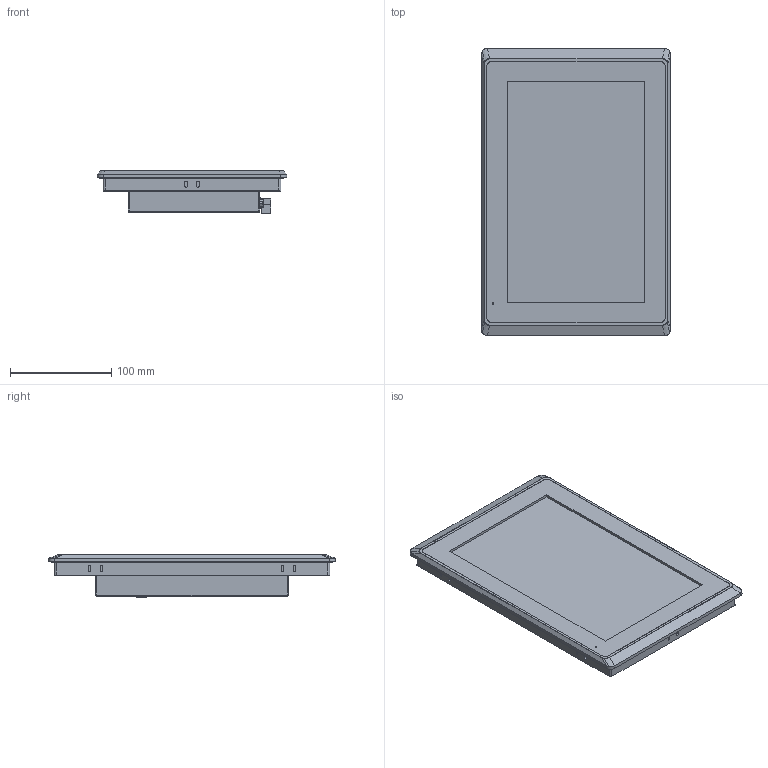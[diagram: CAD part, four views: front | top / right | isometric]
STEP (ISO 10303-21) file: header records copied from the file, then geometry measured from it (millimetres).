
FILE_DESCRIPTION((''),'2;1');
FILE_NAME('FPM-1001D-20241226','2025-08-01T19:16:42',('anthony'),(''),'CREO PARAMETRIC BY PTC INC, 2024063','CREO PARAMETRIC BY PTC INC, 2024063','');
FILE_SCHEMA(('CONFIG_CONTROL_DESIGN','SHAPE_APPEARANCE_LAYERS_GROUPS'));
Products named in the file (1): FPM-1001D-20241226
Bounding box: 186.94 x 283.24 x 42.59 mm (x, y, z)
Volume: 800765.7 mm3; surface area: 393509.6 mm2
Topology: 4 solids, 41 shells, 3663 faces, 10027 edges, 6592 vertices
Faces by surface type: plane 2581, cylinder 826, cone 127, bspline 72, torus 48, sphere 5, extrusion 4
Entity records: 126735 total; most frequent: CARTESIAN_POINT 26564, ORIENTED_EDGE 19935, DIRECTION 18596, EDGE_CURVE 10007, VECTOR 7860, LINE 7856, VERTEX_POINT 6592, AXIS2_PLACEMENT_3D 5368
